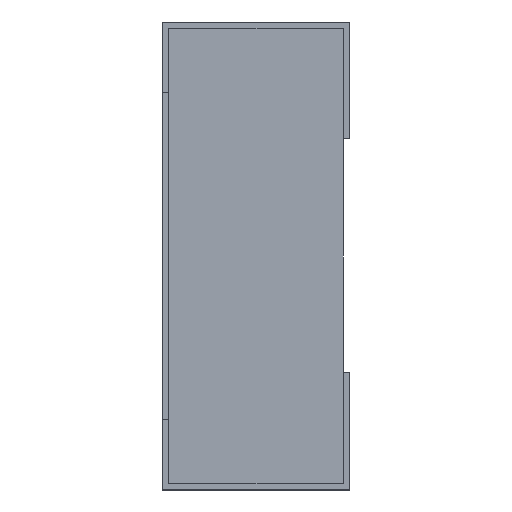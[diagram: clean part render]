
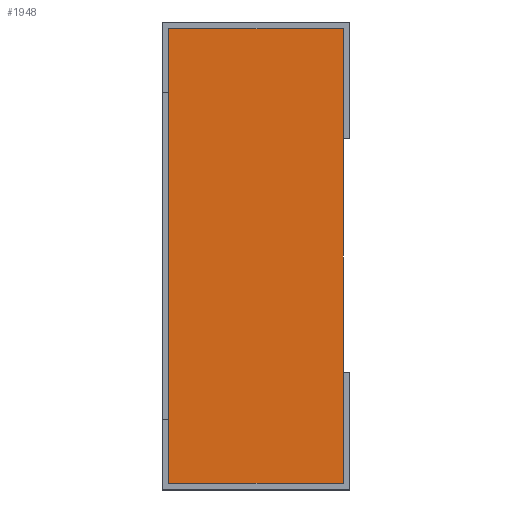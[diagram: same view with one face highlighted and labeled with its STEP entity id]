
A CAD part, left-side view. The second image highlights one B-rep face of the part: STEP entity #1948.
In plain terms, the highlighted planar face has unit normal (-1, 0, 0).
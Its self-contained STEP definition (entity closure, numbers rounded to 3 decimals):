
#90=FACE_OUTER_BOUND('',#198,.T.);
#198=EDGE_LOOP('',(#1267,#1268,#1269,#1270));
#288=LINE('',#2708,#520);
#328=LINE('',#2819,#560);
#329=LINE('',#2821,#561);
#330=LINE('',#2822,#562);
#520=VECTOR('',#2193,0.372);
#560=VECTOR('',#2301,0.372);
#561=VECTOR('',#2304,0.972);
#562=VECTOR('',#2305,0.972);
#752=VERTEX_POINT('',#2705);
#753=VERTEX_POINT('',#2707);
#789=VERTEX_POINT('',#2815);
#790=VERTEX_POINT('',#2817);
#928=EDGE_CURVE('',#752,#753,#288,.T.);
#984=EDGE_CURVE('',#789,#790,#328,.T.);
#985=EDGE_CURVE('',#752,#789,#329,.T.);
#986=EDGE_CURVE('',#753,#790,#330,.T.);
#1267=ORIENTED_EDGE('',*,*,#985,.T.);
#1268=ORIENTED_EDGE('',*,*,#984,.T.);
#1269=ORIENTED_EDGE('',*,*,#986,.F.);
#1270=ORIENTED_EDGE('',*,*,#928,.F.);
#1730=PLANE('',#2083);
#1948=ADVANCED_FACE('',(#90),#1730,.T.);
#2083=AXIS2_PLACEMENT_3D('',#2820,#2302,#2303);
#2193=DIRECTION('',(0.,1.,0.));
#2301=DIRECTION('',(0.,1.,0.));
#2302=DIRECTION('center_axis',(-1.,0.,0.));
#2303=DIRECTION('ref_axis',(0.,0.,1.));
#2304=DIRECTION('',(0.,0.,1.));
#2305=DIRECTION('',(0.,0.,1.));
#2705=CARTESIAN_POINT('',(0.,0.,0.));
#2707=CARTESIAN_POINT('',(0.,0.372,0.));
#2708=CARTESIAN_POINT('',(0.,0.,0.));
#2815=CARTESIAN_POINT('',(0.,0.,0.972));
#2817=CARTESIAN_POINT('',(0.,0.372,0.972));
#2819=CARTESIAN_POINT('',(0.,0.,0.972));
#2820=CARTESIAN_POINT('Origin',(0.,0.,0.));
#2821=CARTESIAN_POINT('',(0.,0.,0.));
#2822=CARTESIAN_POINT('',(0.,0.372,0.));
